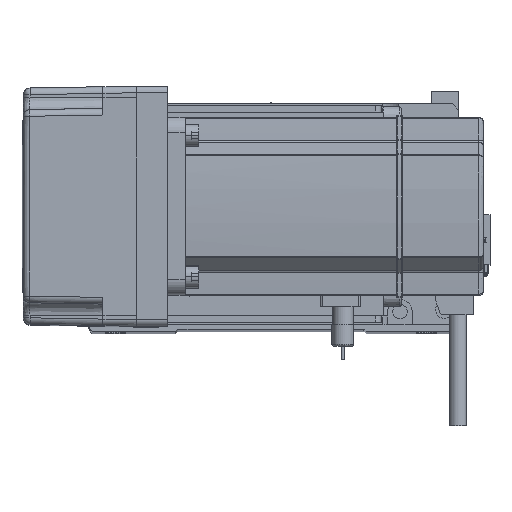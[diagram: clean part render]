
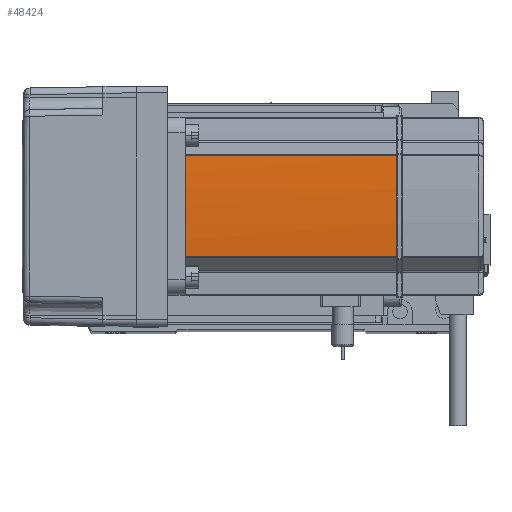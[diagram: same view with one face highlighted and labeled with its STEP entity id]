
A CAD part, top view. The second image highlights one B-rep face of the part: STEP entity #48424.
In plain terms, the highlighted cylindrical face has radius 270 mm (diameter 540 mm), a partial arc.
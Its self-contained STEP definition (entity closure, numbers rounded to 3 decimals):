
#198 = VERTEX_POINT ( 'NONE', #11251 ) ;
#619 = CARTESIAN_POINT ( 'NONE',  ( 39.042, -22.724, 39. ) ) ;
#1574 = VERTEX_POINT ( 'NONE', #15554 ) ;
#1614 = CARTESIAN_POINT ( 'NONE',  ( 39.042, 22.724, 134. ) ) ;
#1894 = DIRECTION ( 'NONE',  ( 0., 0., -1. ) ) ;
#3813 = CARTESIAN_POINT ( 'NONE',  ( -230., 0., 134. ) ) ;
#4827 = LINE ( 'NONE', #39932, #32081 ) ;
#6876 = CARTESIAN_POINT ( 'NONE',  ( 39.042, 22.724, 58. ) ) ;
#8047 = CIRCLE ( 'NONE', #46754, 270. ) ;
#8129 = AXIS2_PLACEMENT_3D ( 'NONE', #3813, #21124, #12387 ) ;
#8770 = CARTESIAN_POINT ( 'NONE',  ( -230., 0., 39. ) ) ;
#9624 = FACE_OUTER_BOUND ( 'NONE', #30286, .T. ) ;
#11251 = CARTESIAN_POINT ( 'NONE',  ( 40., 0.127, 134. ) ) ;
#11823 = ORIENTED_EDGE ( 'NONE', *, *, #47074, .F. ) ;
#12250 = EDGE_CURVE ( 'NONE', #43072, #198, #14370, .T. ) ;
#12387 = DIRECTION ( 'NONE',  ( -1., 0., 0. ) ) ;
#13613 = ORIENTED_EDGE ( 'NONE', *, *, #43335, .T. ) ;
#14370 = B_SPLINE_CURVE_WITH_KNOTS ( 'NONE', 3,
 ( #15695, #46160, #19540, #32678 ),
 .UNSPECIFIED., .F., .F.,
 ( 4, 4 ),
 ( 0., 1. ),
 .UNSPECIFIED. ) ;
#14801 = CARTESIAN_POINT ( 'NONE',  ( 39.042, -22.724, 134. ) ) ;
#15554 = CARTESIAN_POINT ( 'NONE',  ( 39.042, 22.724, 39. ) ) ;
#15695 = CARTESIAN_POINT ( 'NONE',  ( 40., -0.127, 134. ) ) ;
#17650 = ORIENTED_EDGE ( 'NONE', *, *, #30573, .T. ) ;
#18200 = DIRECTION ( 'NONE',  ( 0., 0., -1. ) ) ;
#19284 = LINE ( 'NONE', #6876, #52022 ) ;
#19540 = CARTESIAN_POINT ( 'NONE',  ( 40., 0.042, 134. ) ) ;
#21124 = DIRECTION ( 'NONE',  ( 0., 0., -1. ) ) ;
#26875 = VERTEX_POINT ( 'NONE', #619 ) ;
#28368 = DIRECTION ( 'NONE',  ( 0., 0., 1. ) ) ;
#28494 = VERTEX_POINT ( 'NONE', #1614 ) ;
#28881 = AXIS2_PLACEMENT_3D ( 'NONE', #32839, #53780, #53972 ) ;
#30286 = EDGE_LOOP ( 'NONE', ( #49942, #11823, #17650, #34027, #34755, #13613 ) ) ;
#30573 = EDGE_CURVE ( 'NONE', #1574, #28494, #19284, .T. ) ;
#32081 = VECTOR ( 'NONE', #18200, 1000. ) ;
#32678 = CARTESIAN_POINT ( 'NONE',  ( 40., 0.127, 134. ) ) ;
#32839 = CARTESIAN_POINT ( 'NONE',  ( -230., 0., 58. ) ) ;
#34027 = ORIENTED_EDGE ( 'NONE', *, *, #49134, .T. ) ;
#34755 = ORIENTED_EDGE ( 'NONE', *, *, #12250, .F. ) ;
#35515 = CARTESIAN_POINT ( 'NONE',  ( 40., -0.127, 134. ) ) ;
#36864 = CIRCLE ( 'NONE', #47806, 270. ) ;
#39932 = CARTESIAN_POINT ( 'NONE',  ( 39.042, -22.724, 58. ) ) ;
#40897 = CYLINDRICAL_SURFACE ( 'NONE', #28881, 270. ) ;
#41658 = DIRECTION ( 'NONE',  ( -1., 0., 0. ) ) ;
#43072 = VERTEX_POINT ( 'NONE', #35515 ) ;
#43335 = EDGE_CURVE ( 'NONE', #43072, #53546, #8047, .T. ) ;
#44190 = CIRCLE ( 'NONE', #8129, 270. ) ;
#45820 = CARTESIAN_POINT ( 'NONE',  ( -230., 0., 134. ) ) ;
#46160 = CARTESIAN_POINT ( 'NONE',  ( 40., -0.042, 134. ) ) ;
#46754 = AXIS2_PLACEMENT_3D ( 'NONE', #45820, #1894, #41658 ) ;
#47074 = EDGE_CURVE ( 'NONE', #1574, #26875, #36864, .T. ) ;
#47397 = DIRECTION ( 'NONE',  ( -1., 0., 0. ) ) ;
#47806 = AXIS2_PLACEMENT_3D ( 'NONE', #8770, #55804, #47397 ) ;
#48424 = ADVANCED_FACE ( 'NONE', ( #9624 ), #40897, .T. ) ;
#49134 = EDGE_CURVE ( 'NONE', #28494, #198, #44190, .T. ) ;
#49942 = ORIENTED_EDGE ( 'NONE', *, *, #51799, .T. ) ;
#51799 = EDGE_CURVE ( 'NONE', #53546, #26875, #4827, .T. ) ;
#52022 = VECTOR ( 'NONE', #28368, 1000. ) ;
#53546 = VERTEX_POINT ( 'NONE', #14801 ) ;
#53780 = DIRECTION ( 'NONE',  ( 0., 0., -1. ) ) ;
#53972 = DIRECTION ( 'NONE',  ( -1., 0., 0. ) ) ;
#55804 = DIRECTION ( 'NONE',  ( 0., 0., -1. ) ) ;
